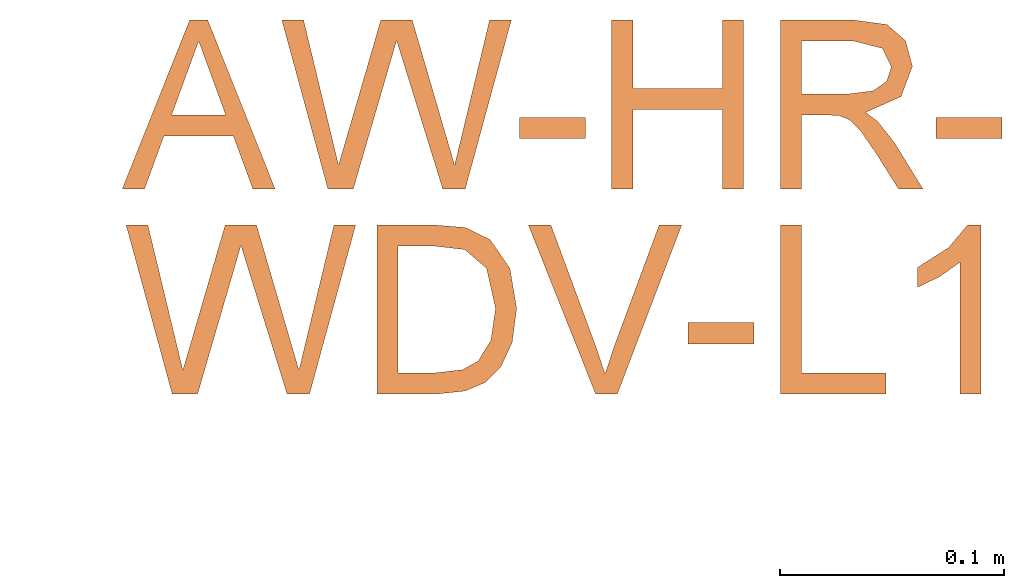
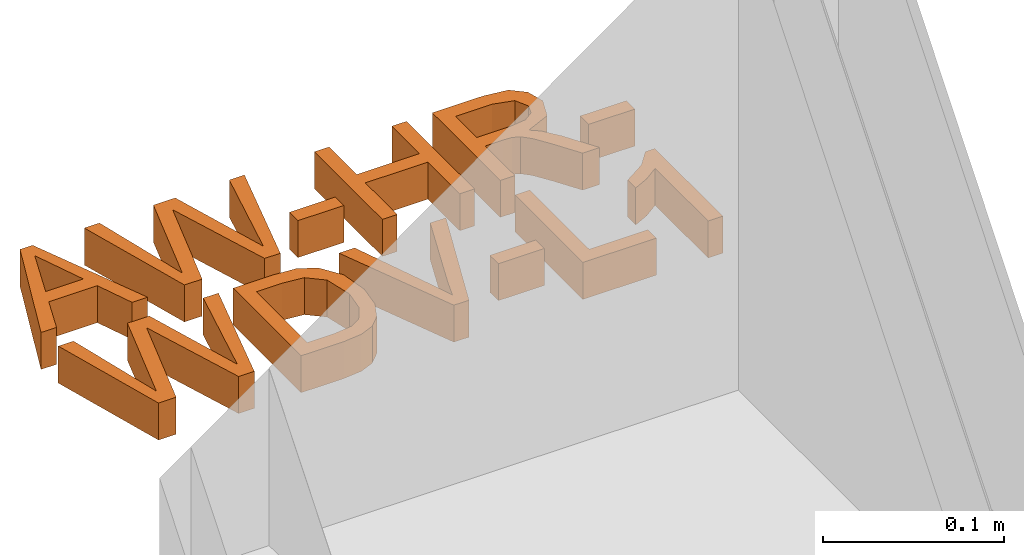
# Not in any storey, part 2 of 2: 1 proxy.
"""IFC4 model written with IfcOpenShell, lengths in metres."""

from ifc_helpers import new_model, entity, si_unit, converted_unit, derived_unit, direction, frame, origin, place, context, subcontext, project, spatial, indexed_curve, outline, extrude, type_object, element, save


model = new_model("IFC4")

# Units and contexts
model_context = context("Model", 3, precision=1e-05, world=origin(), true_north=direction((6.123031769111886e-17, 1.0)))
body_context = subcontext(model_context, "Body", "Model", "MODEL_VIEW")
ifc_project = project(units=[si_unit("LENGTHUNIT", "METRE"), si_unit("AREAUNIT", "SQUARE_METRE"), si_unit("VOLUMEUNIT", "CUBIC_METRE"), converted_unit("PLANEANGLEUNIT", "DEGREE", entity("IfcRatioMeasure", 0.017453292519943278), si_unit("PLANEANGLEUNIT", "RADIAN"), dimensions=[0, 0, 0, 0, 0, 0, 0]), si_unit("MASSUNIT", "GRAM", prefix="KILO"), derived_unit("MASSDENSITYUNIT", [(si_unit("MASSUNIT", "GRAM", prefix="KILO"), 1), (si_unit("LENGTHUNIT", "METRE"), -3)]), derived_unit("IONCONCENTRATIONUNIT", [(si_unit("MASSUNIT", "GRAM", prefix="KILO"), 1), (si_unit("LENGTHUNIT", "METRE"), -3)]), derived_unit("MOMENTOFINERTIAUNIT", [(si_unit("LENGTHUNIT", "METRE"), 4)]), si_unit("TIMEUNIT", "SECOND"), si_unit("FREQUENCYUNIT", "HERTZ"), si_unit("THERMODYNAMICTEMPERATUREUNIT", "DEGREE_CELSIUS"), derived_unit("THERMALTRANSMITTANCEUNIT", [(si_unit("MASSUNIT", "GRAM", prefix="KILO"), 1), (si_unit("THERMODYNAMICTEMPERATUREUNIT", "KELVIN"), -1), (si_unit("TIMEUNIT", "SECOND"), -3)]), derived_unit("THERMALCONDUCTANCEUNIT", [(si_unit("MASSUNIT", "GRAM", prefix="KILO"), 1), (si_unit("THERMODYNAMICTEMPERATUREUNIT", "KELVIN"), -1), (si_unit("TIMEUNIT", "SECOND"), -3), (si_unit("LENGTHUNIT", "METRE"), 1)]), derived_unit("VOLUMETRICFLOWRATEUNIT", [(si_unit("LENGTHUNIT", "METRE"), 3), (si_unit("TIMEUNIT", "SECOND"), -1)]), derived_unit("MASSFLOWRATEUNIT", [(si_unit("MASSUNIT", "GRAM", prefix="KILO"), 1), (si_unit("TIMEUNIT", "SECOND"), -1)]), derived_unit("ROTATIONALFREQUENCYUNIT", [(si_unit("TIMEUNIT", "SECOND"), -1)]), si_unit("ELECTRICCURRENTUNIT", "AMPERE"), si_unit("ELECTRICVOLTAGEUNIT", "VOLT"), si_unit("POWERUNIT", "WATT"), si_unit("FORCEUNIT", "NEWTON", prefix="KILO"), si_unit("ILLUMINANCEUNIT", "LUX"), si_unit("LUMINOUSFLUXUNIT", "LUMEN"), si_unit("LUMINOUSINTENSITYUNIT", "CANDELA"), derived_unit("USERDEFINED", [(si_unit("MASSUNIT", "GRAM", prefix="KILO"), -1), (si_unit("LENGTHUNIT", "METRE"), -2), (si_unit("TIMEUNIT", "SECOND"), 3), (si_unit("LUMINOUSFLUXUNIT", "LUMEN"), 1)]), derived_unit("USERDEFINED", [(si_unit("MASSUNIT", "GRAM", prefix="KILO"), 1), (si_unit("TIMEUNIT", "SECOND"), -3), (si_unit("LENGTHUNIT", "METRE"), 3), (si_unit("ELECTRICCURRENTUNIT", "AMPERE"), -2)]), derived_unit("SOUNDPOWERUNIT", [(si_unit("MASSUNIT", "GRAM", prefix="KILO"), 1), (si_unit("TIMEUNIT", "SECOND"), -3), (si_unit("LENGTHUNIT", "METRE"), 2)]), derived_unit("SOUNDPRESSUREUNIT", [(si_unit("MASSUNIT", "GRAM", prefix="KILO"), 1), (si_unit("LENGTHUNIT", "METRE"), -1), (si_unit("TIMEUNIT", "SECOND"), -2)]), derived_unit("LINEARVELOCITYUNIT", [(si_unit("LENGTHUNIT", "METRE"), 1), (si_unit("TIMEUNIT", "SECOND"), -1)]), si_unit("PRESSUREUNIT", "PASCAL"), derived_unit("USERDEFINED", [(si_unit("MASSUNIT", "GRAM", prefix="KILO"), 1), (si_unit("LENGTHUNIT", "METRE"), -2), (si_unit("TIMEUNIT", "SECOND"), -2)]), derived_unit("LINEARFORCEUNIT", [(si_unit("MASSUNIT", "GRAM", prefix="KILO"), 1), (si_unit("TIMEUNIT", "SECOND"), -2)]), derived_unit("PLANARFORCEUNIT", [(si_unit("MASSUNIT", "GRAM", prefix="KILO"), 1), (si_unit("LENGTHUNIT", "METRE"), -1), (si_unit("TIMEUNIT", "SECOND"), -2)]), derived_unit("SPECIFICHEATCAPACITYUNIT", [(si_unit("THERMODYNAMICTEMPERATUREUNIT", "KELVIN"), -1), (si_unit("LENGTHUNIT", "METRE"), 2), (si_unit("TIMEUNIT", "SECOND"), -2)]), derived_unit("HEATINGVALUEUNIT", [(si_unit("LENGTHUNIT", "METRE"), 2), (si_unit("TIMEUNIT", "SECOND"), -2)]), derived_unit("VAPORPERMEABILITYUNIT", [(si_unit("LENGTHUNIT", "METRE"), -1), (si_unit("TIMEUNIT", "SECOND"), 1)]), derived_unit("DYNAMICVISCOSITYUNIT", [(si_unit("MASSUNIT", "GRAM", prefix="KILO"), 1), (si_unit("TIMEUNIT", "SECOND"), -1), (si_unit("LENGTHUNIT", "METRE"), -1)]), derived_unit("THERMALEXPANSIONCOEFFICIENTUNIT", [(si_unit("THERMODYNAMICTEMPERATUREUNIT", "KELVIN"), -1)]), derived_unit("MODULUSOFELASTICITYUNIT", [(si_unit("MASSUNIT", "GRAM", prefix="KILO"), 1), (si_unit("LENGTHUNIT", "METRE"), -1), (si_unit("TIMEUNIT", "SECOND"), -2)]), derived_unit("ISOTHERMALMOISTURECAPACITYUNIT", [(si_unit("LENGTHUNIT", "METRE"), 3), (si_unit("MASSUNIT", "GRAM", prefix="KILO"), -1)]), derived_unit("MOISTUREDIFFUSIVITYUNIT", [(si_unit("TIMEUNIT", "SECOND"), -1), (si_unit("LENGTHUNIT", "METRE"), 2)])], contexts=[model_context])

# Site
site_placement = place(None, origin())
site = spatial("IfcSite", under=ifc_project, at=site_placement, Name="Default", CompositionType="ELEMENT")

# Proxy
building_element_proxy_type = type_object("IfcBuildingElementProxyType", Name="Modelltext:075mm Arial", PredefinedType="NOTDEFINED")
proxy_placement = place(site_placement, origin())
element("IfcBuildingElementProxy", 1, at=proxy_placement, inside=site, type_object=building_element_proxy_type, Name="Modelltext:075mm Arial", ObjectType="Modelltext:075mm Arial", PredefinedType="NOTDEFINED", context=body_context, shape_type="SweptSolid", body=[
    extrude(outline(indexed_curve([(-0.03408196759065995, -0.024721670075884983), (-0.024130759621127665, -0.024721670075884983), (-0.015522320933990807, -0.0011772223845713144), (0.01550852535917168, -0.0011772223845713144), (0.024135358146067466, -0.024721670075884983), (0.03408656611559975, -0.024721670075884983), (0.004012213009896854, 0.05062056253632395), (-0.004007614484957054, 0.05062056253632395), (-0.03408196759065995, -0.024721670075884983)], self_intersect=False), holes=[indexed_curve([(-0.012064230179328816, 0.008240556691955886), (-0.0046881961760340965, 0.028382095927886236), (2.299262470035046e-06, 0.041202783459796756), (0.005281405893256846, 0.026763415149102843), (0.012068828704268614, 0.008240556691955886), (-0.012064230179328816, 0.008240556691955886)], self_intersect=False)]), frame((-1.4885522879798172, 47.89440380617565, 0.0)), (0.0, 0.0, 1.0), 0.025),
    extrude(outline(indexed_curve([(-0.03048676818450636, -0.0403895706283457), (-0.019119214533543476, -0.0403895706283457), (-0.0026564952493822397, 0.016080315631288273), (0.00017619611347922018, 0.02584758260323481), (0.0026961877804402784, 0.01773578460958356), (0.020759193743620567, -0.0403895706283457), (0.030820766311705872, -0.0403895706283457), (0.05138536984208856, 0.03495266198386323), (0.04167328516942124, 0.03495266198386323), (0.02964354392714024, -0.015005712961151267), (0.02607508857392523, -0.02984975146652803), (0.01800007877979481, -0.0022218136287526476), (0.007147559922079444, 0.03495266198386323), (-0.006850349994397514, 0.03495266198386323), (-0.02178635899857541, -0.0163300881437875), (-0.02572269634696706, -0.02984975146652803), (-0.02940151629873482, -0.01456425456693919), (-0.04132089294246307, 0.03495266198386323), (-0.05103297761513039, 0.03495266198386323), (-0.03048676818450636, -0.0403895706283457)], self_intersect=False)), frame((-1.4004345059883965, 47.91007170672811, 0.0)), (0.0, 0.0, 1.0), 0.025),
    extrude(outline(indexed_curve([(-0.014715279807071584, -0.004708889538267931), (0.014715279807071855, -0.004708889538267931), (0.014715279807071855, 0.004708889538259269), (-0.014715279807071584, 0.004708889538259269), (-0.014715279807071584, -0.004708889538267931)], self_intersect=False)), frame((-1.330802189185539, 47.896758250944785, 0.0)), (0.0, 0.0, 1.0), 0.025),
    extrude(outline(indexed_curve([(-0.02943055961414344, -0.038455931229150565), (-0.020012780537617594, -0.038455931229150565), (-0.020012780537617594, -0.003139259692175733), (0.020012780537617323, -0.003139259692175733), (0.020012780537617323, -0.038455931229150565), (0.02943055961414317, -0.038455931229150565), (0.02943055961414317, 0.036886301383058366), (0.020012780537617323, 0.036886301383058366), (0.020012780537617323, 0.006278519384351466), (-0.020012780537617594, 0.006278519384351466), (-0.020012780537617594, 0.036886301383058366), (-0.02943055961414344, 0.036886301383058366), (-0.02943055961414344, -0.038455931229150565)], self_intersect=False)), frame((-1.2748841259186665, 47.90813806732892, 0.0)), (0.0, 0.0, 1.0), 0.025),
    extrude(outline(indexed_curve([(-0.03536314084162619, -0.0337691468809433), (-0.02594536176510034, -0.0337691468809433), (-0.02594536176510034, -0.0008069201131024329), (-0.01457780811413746, -0.0008069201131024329), (-0.009114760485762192, -0.0011380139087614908), (-0.0046357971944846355, -0.00293143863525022), (0.0003398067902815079, -0.007815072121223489), (0.007421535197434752, -0.01815255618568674), (0.017225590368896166, -0.0337691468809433), (0.02817007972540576, -0.0337691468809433), (0.015606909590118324, -0.013351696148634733), (0.007973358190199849, -0.003658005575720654), (0.002620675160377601, 0.00037030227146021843), (0.018393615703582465, 0.007378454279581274), (0.02349797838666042, 0.020953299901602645), (0.020416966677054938, 0.032348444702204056), (0.01217640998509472, 0.039540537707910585), (-0.002897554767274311, 0.041573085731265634), (-0.03536314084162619, 0.041573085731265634), (-0.03536314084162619, -0.0337691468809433)], self_intersect=False), holes=[indexed_curve([(-0.02594536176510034, 0.008610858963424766), (-0.02594536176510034, 0.03215530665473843), (-0.002492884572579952, 0.03215530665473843), (0.010097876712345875, 0.028899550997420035), (0.014080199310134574, 0.020603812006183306), (0.011992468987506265, 0.01421186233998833), (0.005885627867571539, 0.009944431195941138), (-0.004865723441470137, 0.008610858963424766), (-0.02594536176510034, 0.008610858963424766)], self_intersect=False)]), frame((-1.1936093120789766, 47.90345128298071, 0.0)), (0.0, 0.0, 1.0), 0.025),
    extrude(outline(indexed_curve([(-0.014715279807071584, -0.004708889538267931), (0.01471527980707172, -0.004708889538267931), (0.01471527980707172, 0.004708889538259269), (-0.014715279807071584, 0.004708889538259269), (-0.014715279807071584, -0.004708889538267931)], self_intersect=False)), frame((-1.144801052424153, 47.896758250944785, 0.0)), (0.0, 0.0, 1.0), 0.025),
    extrude(outline(indexed_curve([(-0.030486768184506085, -0.04038957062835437), (-0.019119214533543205, -0.04038957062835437), (-0.002656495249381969, 0.01608031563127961), (0.0001761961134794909, 0.025847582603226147), (0.002696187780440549, 0.0177357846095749), (0.020759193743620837, -0.04038957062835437), (0.030820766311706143, -0.04038957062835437), (0.05138536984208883, 0.03495266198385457), (0.04167328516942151, 0.03495266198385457), (0.02964354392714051, -0.015005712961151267), (0.0260750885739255, -0.029849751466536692), (0.018000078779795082, -0.002221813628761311), (0.007147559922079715, 0.03495266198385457), (-0.006850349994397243, 0.03495266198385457), (-0.021786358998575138, -0.0163300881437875), (-0.02572269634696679, -0.029849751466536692), (-0.02940151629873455, -0.01456425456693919), (-0.0413208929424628, 0.03495266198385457), (-0.05103297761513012, 0.03495266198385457), (-0.030486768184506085, -0.04038957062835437)], self_intersect=False)), frame((-1.469890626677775, 47.8185905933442, 0.0)), (0.0, 0.0, 1.0), 0.025),
    extrude(outline(indexed_curve([(-0.039028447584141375, -0.03575046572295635), (-0.011786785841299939, -0.03575046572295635), (0.00032572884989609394, -0.03446287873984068), (0.009329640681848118, -0.030682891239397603), (0.01620903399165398, -0.023849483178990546), (0.021359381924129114, -0.012877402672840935), (0.02336433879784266, 0.0023253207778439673), (0.020402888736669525, 0.02024117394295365), (0.011481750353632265, 0.033117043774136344), (0.0004085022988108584, 0.03850651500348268), (-0.013037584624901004, 0.03959176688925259), (-0.039028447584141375, 0.03959176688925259), (-0.039028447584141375, -0.03575046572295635)], self_intersect=False), holes=[indexed_curve([(-0.02961066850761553, -0.026332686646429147), (-0.02961066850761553, 0.030173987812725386), (-0.013203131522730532, 0.030173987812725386), (0.00015098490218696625, 0.028665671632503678), (0.009927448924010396, 0.02031475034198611), (0.013946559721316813, 0.0024724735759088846), (0.011895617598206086, -0.011773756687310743), (0.0061658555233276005, -0.02112715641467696), (-0.0008239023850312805, -0.024971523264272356), (-0.01294561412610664, -0.026332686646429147), (-0.02961066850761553, -0.026332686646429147)], self_intersect=False)]), frame((-1.370059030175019, 47.8139514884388, 0.0)), (0.0, 0.0, 1.0), 0.025),
    extrude(outline(indexed_curve([(-0.004365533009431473, -0.03914673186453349), (0.005364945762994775, -0.03914673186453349), (0.034078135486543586, 0.03619550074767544), (0.023998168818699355, 0.03619550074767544), (0.003875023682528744, -0.018085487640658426), (-0.00013489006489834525, -0.03031756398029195), (-0.004199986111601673, -0.018085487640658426), (-0.024267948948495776, 0.03619550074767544), (-0.034347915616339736, 0.03619550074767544), (-0.004365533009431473, -0.03914673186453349)], self_intersect=False)), frame((-1.307122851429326, 47.81734775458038, 0.0)), (0.0, 0.0, 1.0), 0.025),
    extrude(outline(indexed_curve([(-0.014715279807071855, -0.004708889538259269), (0.014715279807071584, -0.004708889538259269), (0.014715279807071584, 0.004708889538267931), (-0.014715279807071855, 0.004708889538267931), (-0.014715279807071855, -0.004708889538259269)], self_intersect=False)), frame((-1.2554599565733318, 47.80527713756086, 0.0)), (0.0, 0.0, 1.0), 0.025),
    extrude(outline(indexed_curve([(-0.01883555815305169, -0.0282533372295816), (0.028253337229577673, -0.0282533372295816), (0.028253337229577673, -0.0188355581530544), (-0.009417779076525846, -0.0188355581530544), (-0.009417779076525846, 0.04708889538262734), (-0.01883555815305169, 0.04708889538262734), (-0.01883555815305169, -0.0282533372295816)], self_intersect=False)), frame((-1.210136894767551, 47.80645435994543, 0.0)), (0.0, 0.0, 1.0), 0.025),
    extrude(outline(indexed_curve([(-0.04790947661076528, -0.012688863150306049), (0.02743275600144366, -0.012688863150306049), (0.02743275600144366, -0.00661881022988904), (0.01740797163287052, 0.0017597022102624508), (0.00859719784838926, 0.015564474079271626), (-0.00030554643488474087, 0.015564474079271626), (0.004449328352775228, 0.005650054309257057), (0.010804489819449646, -0.003271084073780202), (-0.04790947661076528, -0.003271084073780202), (-0.04790947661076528, -0.012688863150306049)], self_intersect=False)), frame((-1.152192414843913, 47.82611049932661, 0.0), z_axis=(0.0, 0.0, 1.0), x_axis=(0.0, 1.0, 0.0)), (0.0, 0.0, 1.0), 0.025),
])

save(model, "model.ifc")
